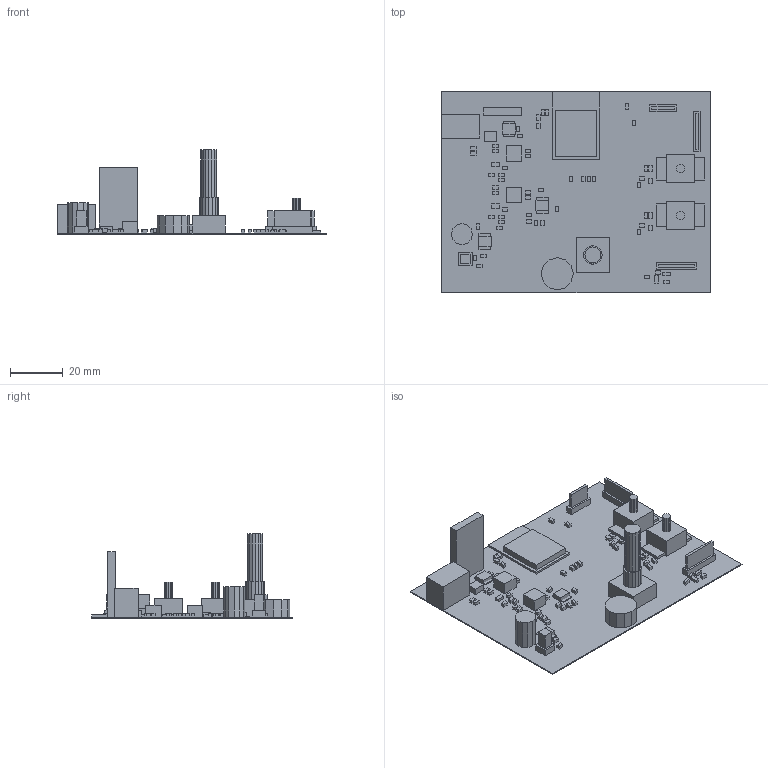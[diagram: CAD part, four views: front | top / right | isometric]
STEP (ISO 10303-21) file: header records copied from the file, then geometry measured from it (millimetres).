
FILE_DESCRIPTION(('Open CASCADE Model'),'2;1');
FILE_NAME('Open CASCADE Shape Model','2026-11-22T14:58:19',('Author'),( 'Open CASCADE'),'Open CASCADE STEP processor 7.5','Open CASCADE 7.5' ,'Unknown');
FILE_SCHEMA(('AUTOMOTIVE_DESIGN { 1 0 10303 214 1 1 1 1 }'));
Length unit declared in the file: millimetre
Products named in the file (137): PCB; Board; Open CASCADE STEP translator 7.5 1.1.1; U6; 8441244976; Extruded; 8441247472; 8688254560; J1; 8517777104; U1; 8441251216; 8441251264; C1; 8517773216; C2; C3; 8663554992; C4; C5; C6; C7; C8; C9; C11; C12; R1; R2; R3; R4; R5; R6; R7; R8; R9; R10; R11; R12; R14; R15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
Assembly tree (197 placements, depth 4):
  PCB
    Board
      Open CASCADE STEP translator 7.5 1.1.1
    U6
      8441244976
        Extruded
      8441247472
        Extruded
      8688254560
        Extruded
    J1
      8517777104
        Extruded
    U1
      8441251216
        Extruded
      8441251264
        Extruded
    C1
      8517773216
        Extruded
    C2
      8517773216
        Extruded
    C3
      8663554992
        Extruded
    C4
      8517773216
        Extruded
    C5
      8663554992
        Extruded
    C6
      8663554992
        Extruded
    C7
      8663554992
        Extruded
    C8
      8663554992
        Extruded
    C9
      8663554992
        Extruded
    C11
      8663554992
        Extruded
    C12
      8663554992
        Extruded
    R1
      8517773216
        Extruded
    R2
      8663554992
        Extruded
    R3
      8517773216
        Extruded
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Bounding box: 101.6 x 76.2 x 31.89 mm (x, y, z)
Volume: 13004.2 mm3; surface area: 25970.2 mm2
Topology: 91 solids, 91 shells, 610 faces, 1284 edges, 856 vertices
Faces by surface type: plane 610
Entity records: 9470 total; most frequent: DIRECTION 1376, CARTESIAN_POINT 1290, ORIENTED_EDGE 1032, EDGE_CURVE 516, LINE 516, VECTOR 516, AXIS2_PLACEMENT_3D 430, VERTEX_POINT 344
